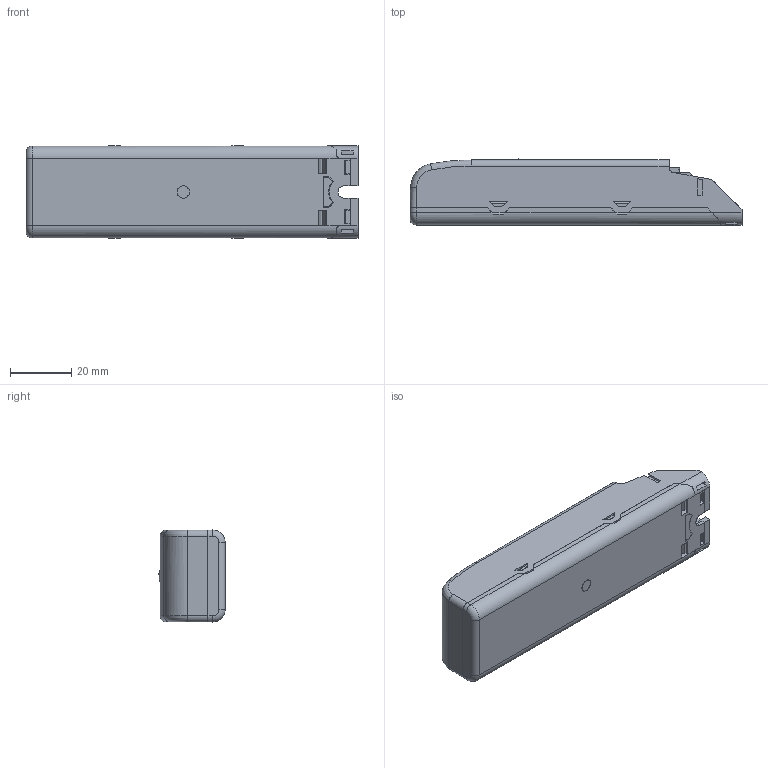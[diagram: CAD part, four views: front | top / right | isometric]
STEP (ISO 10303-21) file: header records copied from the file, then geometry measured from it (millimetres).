
FILE_DESCRIPTION (( 'STEP AP214' ), '1' );
FILE_NAME ('DALI PS 100 LI _CAD Daten.STEP', '2018-05-28T10:07:59', ( '' ), ( '' ), 'SwSTEP 2.0', 'SolidWorks 2017', '' );
FILE_SCHEMA (( 'AUTOMOTIVE_DESIGN' ));
Length unit declared in the file: millimetre
Products named in the file (4): 3543087swm000; 3638927swm000; 3505077swm000; DALI PS 100 LI _CAD Daten
Assembly tree (3 placements, depth 2):
  DALI PS 100 LI _CAD Daten
    3505077swm000
    3638927swm000
    3543087swm000
Bounding box: 108.3 x 21.56 x 30.01 mm (x, y, z)
Volume: 28421.2 mm3; surface area: 41376.3 mm2
Topology: 69 solids, 69 shells, 3224 faces, 8227 edges, 5311 vertices
Faces by surface type: plane 2432, bspline 411, cylinder 316, cone 41, torus 13, sphere 11
Full cylindrical faces by diameter (mm): 0.5 x4, 0.56 x2, 0.6 x6, 0.7 x2, 1 x1, 1.4 x4, 2.8 x1, 3 x1, 3.5 x1, 4 x3, 6 x2, 6.8 x1, 8.5 x1
Entity records: 136631 total; most frequent: CARTESIAN_POINT 38687, ORIENTED_EDGE 16276, DIRECTION 13368, EDGE_CURVE 8138, LINE 6580, VECTOR 6580, VERTEX_POINT 5293, EDGE_LOOP 3499
